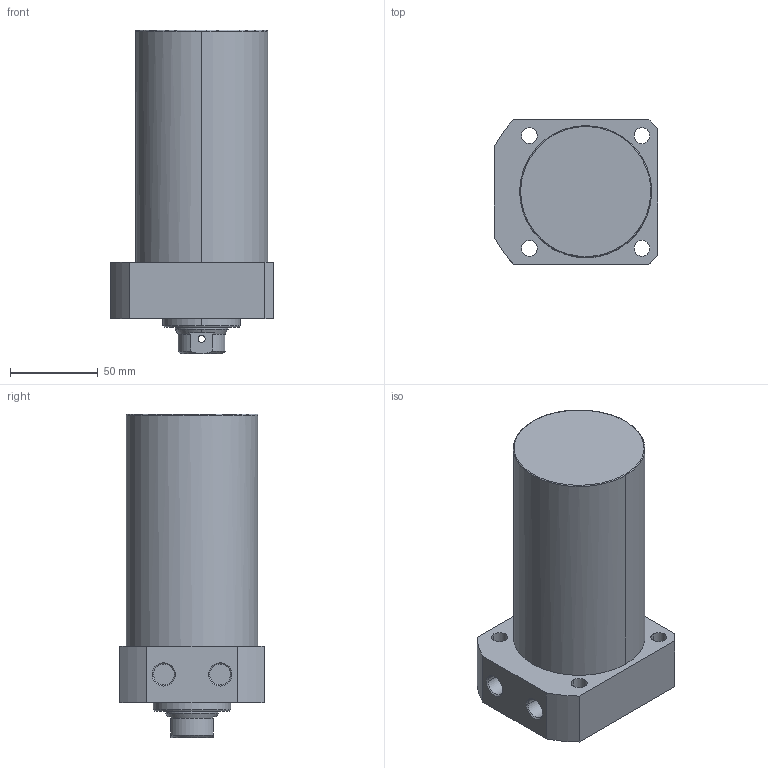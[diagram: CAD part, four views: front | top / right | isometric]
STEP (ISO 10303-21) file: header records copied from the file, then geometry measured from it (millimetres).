
FILE_DESCRIPTION((' '),'2;1');
FILE_NAME( 'TLLR-075CB-095.STEP.stp', '2025-10-24T16:35:08', (' '), ('--- Datakit www.datakit.com---'), ' Datakit CrossCadWare V2024.1 Dec 21 2023', 'Mastercam 2025', ' ');
FILE_SCHEMA(('AUTOMOTIVE_DESIGN { 1 0 10303 214 1 1 1 1 }'));
Length unit declared in the file: millimetre
Products named in the file (1): TLLR-075CB-095
Bounding box: 93 x 82 x 184 mm (x, y, z)
Volume: 818130.9 mm3; surface area: 64841.8 mm2
Topology: 1 solids, 1 shells, 67 faces, 197 edges, 136 vertices
Faces by surface type: cylinder 32, plane 19, cone 14, torus 2
Entity records: 3386 total; most frequent: CARTESIAN_POINT 1467, DIRECTION 426, ORIENTED_EDGE 390, EDGE_CURVE 195, AXIS2_PLACEMENT_3D 179, VERTEX_POINT 136, CIRCLE 111, EDGE_LOOP 85
